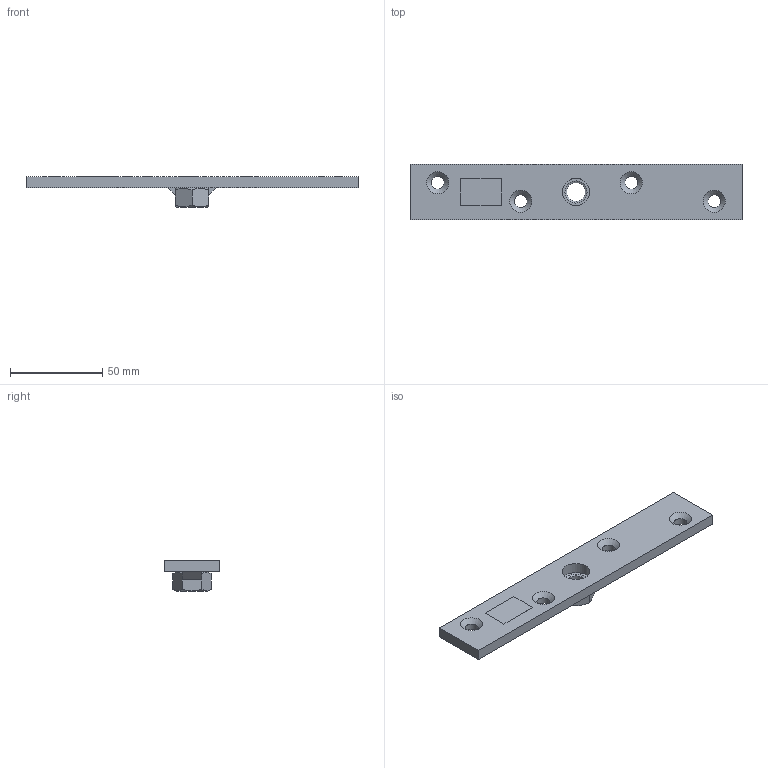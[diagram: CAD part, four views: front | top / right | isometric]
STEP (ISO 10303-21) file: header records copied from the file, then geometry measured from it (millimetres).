
FILE_DESCRIPTION(/* description */ ('Traegerplatte Nr.1'),/* implementation_level */ '2;1');
FILE_NAME(/* name */ 'Q:\sge-ma\Produktmanagement-STB\STB\Workspace\stp\010336610.stp',/* time_stamp */ '2016-07-19T08:47:37+02:00',/* author */ ('avschreier'),/* organization */ (''),/* preprocessor_version */ 'ST-DEVELOPER v16.1',/* originating_system */ 'Autodesk Inventor 2016',/* authorisation */ '');
FILE_SCHEMA (('AUTOMOTIVE_DESIGN { 1 0 10303 214 3 1 1 }'));
Length unit declared in the file: millimetre
Products named in the file (4): 010336610_Schweißnähte; 337000252; DIN_EN_ISO_4032-M12_en; 010336610
Assembly tree (3 placements, depth 2):
  010336610
    010336610_Schweißnähte
    337000252
    DIN_EN_ISO_4032-M12_en
Bounding box: 180 x 30 x 16.8 mm (x, y, z)
Volume: 32356.9 mm3; surface area: 15038.3 mm2
Topology: 4 solids, 4 shells, 43 faces, 100 edges, 66 vertices
Faces by surface type: plane 29, cone 8, cylinder 6
Full cylindrical faces by diameter (mm): 7 x4, 10.106 x1, 15 x1
Entity records: 1224 total; most frequent: CARTESIAN_POINT 214, DIRECTION 188, ORIENTED_EDGE 160, EDGE_CURVE 80, EDGE_LOOP 70, AXIS2_PLACEMENT_3D 70, VERTEX_POINT 60, LINE 48
